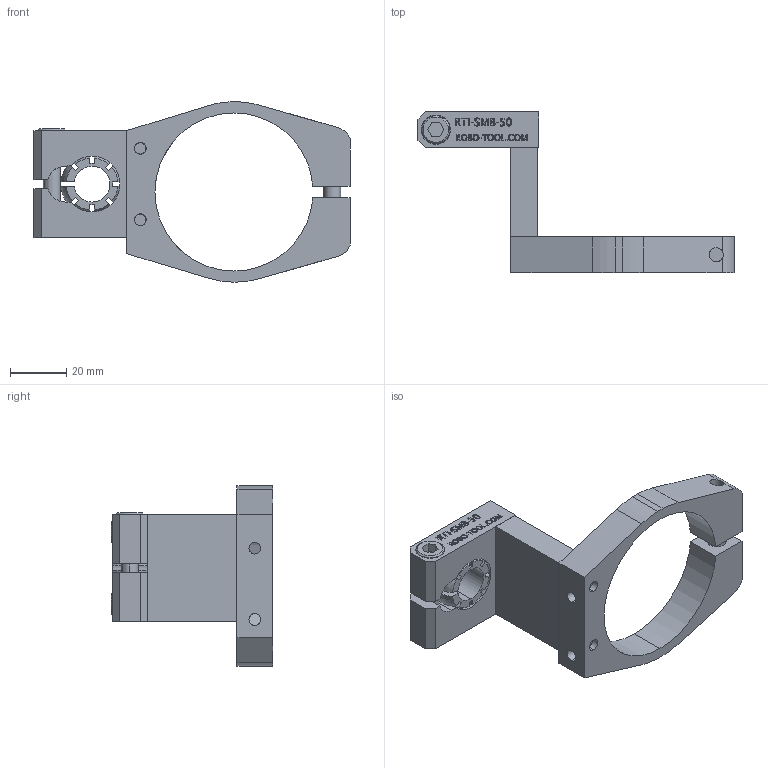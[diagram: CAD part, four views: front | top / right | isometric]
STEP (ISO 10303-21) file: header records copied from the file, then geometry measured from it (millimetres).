
FILE_DESCRIPTION (( 'STEP AP214' ), '1' );
FILE_NAME ('RTI-SNM-50-SPT30-125.STEP', '2013-10-22T20:16:42', ( 'user' ), ( '' ), 'SwSTEP 2.0', 'SolidWorks 2009', '' );
FILE_SCHEMA (( 'AUTOMOTIVE_DESIGN' ));
Length unit declared in the file: inch
Products named in the file (11): RTI-SMB-50; .875 OD_.502 ID_Swivel_Ball; RTI-NM-SPT30; RTI-NM-56-B; M6 WASHER; M6 S.H.C.S._M6x30mm; RTI-SM-SP-125; M5 WASHER; M5 S.H.C.S._M5x50mm; RTI-SNM-50-SPT30-125
Assembly tree (14 placements, depth 3):
  RTI-SNM-50-SPT30-125
    M5 WASHER  x2
    RTI-NM-SPT30
      M6 WASHER
      M6 S.H.C.S._M6x30mm
      RTI-NM-56-B
    M5 S.H.C.S._M5x50mm  x2
    RTI-SM-SP-125
    RTI-SMB-50
      RTI-SMB-50
      M6 S.H.C.S._M6x30mm
      .875 OD_.502 ID_Swivel_Ball
      M6 WASHER
Bounding box: 112.42 x 57.4 x 64.18 mm (x, y, z)
Volume: 50872.5 mm3; surface area: 28567.4 mm2
Topology: 12 solids, 12 shells, 1087 faces, 2821 edges, 1875 vertices
Faces by surface type: plane 660, bspline 317, cylinder 83, cone 17, torus 8, sphere 2
Entity records: 63255 total; most frequent: CARTESIAN_POINT 28288, ORIENTED_EDGE 5432, DIRECTION 3688, EDGE_CURVE 2716, LINE 1892, VECTOR 1892, VERTEX_POINT 1808, EDGE_LOOP 1182
